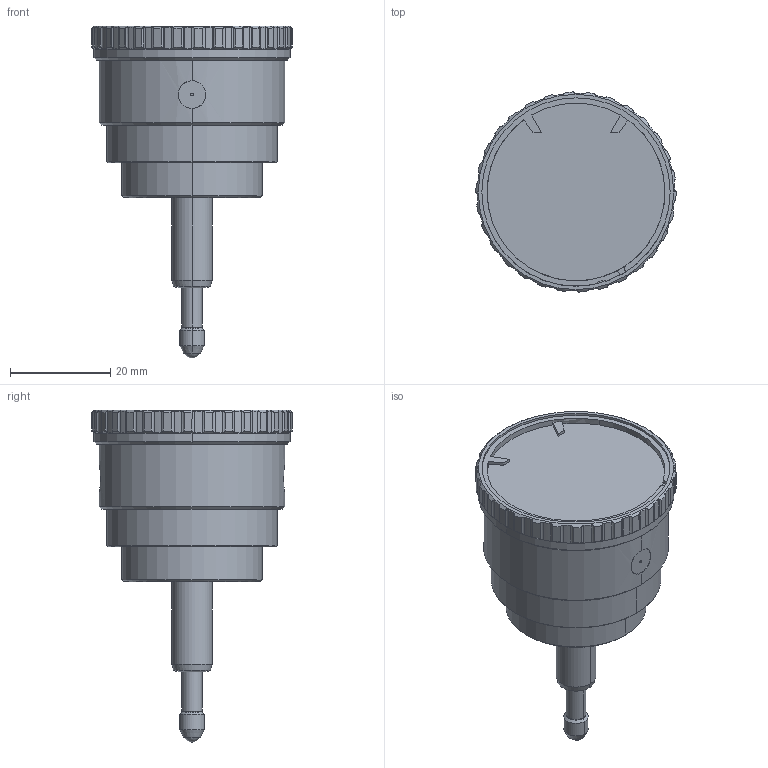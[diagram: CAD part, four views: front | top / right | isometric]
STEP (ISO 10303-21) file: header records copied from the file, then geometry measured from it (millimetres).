
FILE_DESCRIPTION(('STEP AP214'),'1');
FILE_NAME('SI-45-0,8R.STP','2016-07-21T05:50:31',(' '),(' '),'Spatial InterOp 3D',' ',' ');
FILE_SCHEMA(('automotive_design'));
Length unit declared in the file: millimetre
Products named in the file (1): 1
Bounding box: 40 x 39.98 x 66.29 mm (x, y, z)
Volume: 32745.9 mm3; surface area: 7191.7 mm2
Topology: 1 solids, 5 shells, 286 faces, 748 edges, 488 vertices
Faces by surface type: cylinder 210, plane 51, cone 24, sphere 1
Entity records: 13111 total; most frequent: CARTESIAN_POINT 6295, ORIENTED_EDGE 1496, DIRECTION 1322, EDGE_CURVE 748, AXIS2_PLACEMENT_3D 523, VERTEX_POINT 488, EDGE_LOOP 308, ADVANCED_FACE 286
